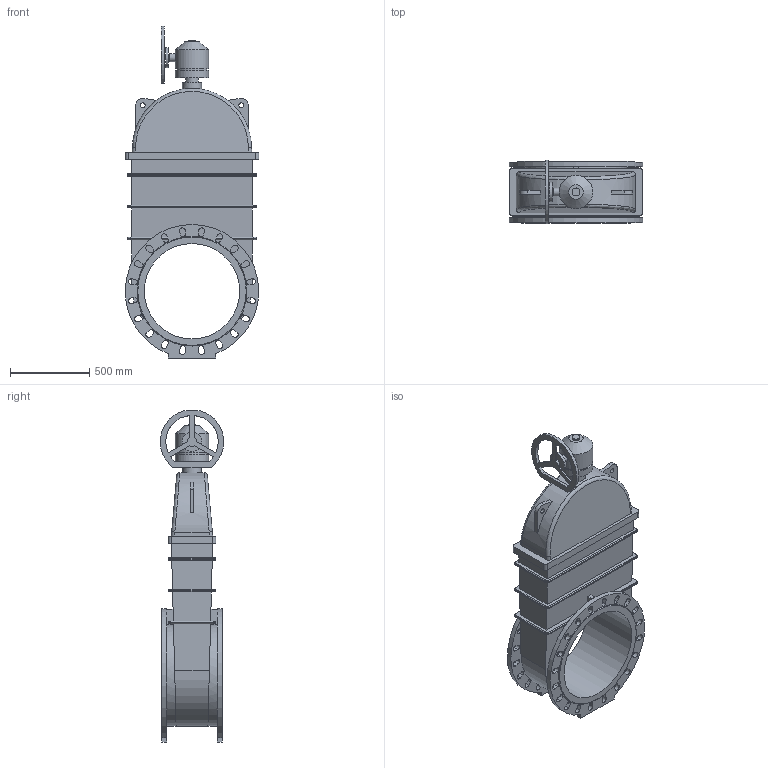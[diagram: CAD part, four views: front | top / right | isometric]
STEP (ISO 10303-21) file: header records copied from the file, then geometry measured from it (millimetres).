
FILE_DESCRIPTION(('STEP AP203'), '1');
FILE_NAME('Çàäâèæêà 47GV.Z DN600 PN10_PN16 + ðåäóêòîð ñ ìàõîâèêîì', '', ('UNSPECIFIED'), ('UNSPECIFIED'), 'ASCON STEP Converter 1.6', 'ASCON Math Kernel', '');
FILE_SCHEMA(('CONFIG_CONTROL_DESIGN'));
Length unit declared in the file: millimetre
Bounding box: 840 x 399.13 x 2089.26 mm (x, y, z)
Volume: 227229863.7 mm3; surface area: 5549770.4 mm2
Topology: 1 solids, 1 shells, 378 faces, 986 edges, 639 vertices
Faces by surface type: plane 188, cylinder 161, bspline 26, cone 3
Full cylindrical faces by diameter (mm): 17.5 x4, 20 x1, 22 x4, 30 x3, 50 x2, 60 x1, 80 x1, 120 x1, 125 x1, 190 x1, 210 x2, 600 x1
Entity records: 17183 total; most frequent: CARTESIAN_POINT 4745, ORIENTED_EDGE 1922, DIRECTION 1906, EDGE_CURVE 961, AXIS2_PLACEMENT_3D 658, VERTEX_POINT 639, LINE 590, VECTOR 590
